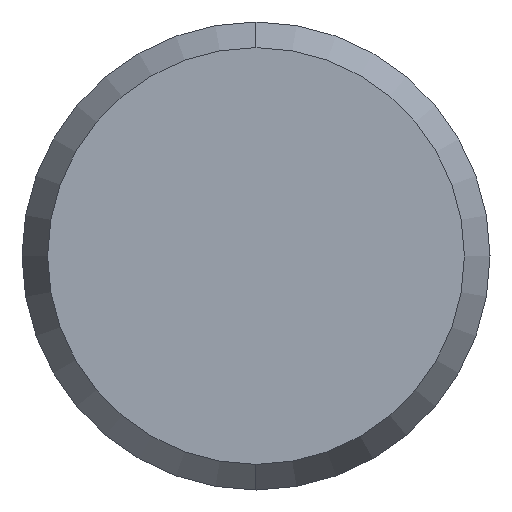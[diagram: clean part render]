
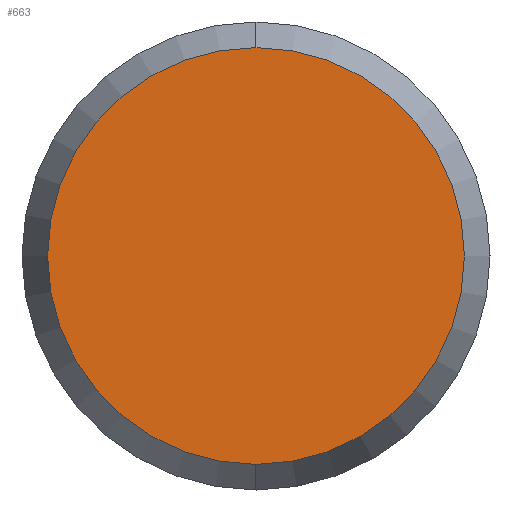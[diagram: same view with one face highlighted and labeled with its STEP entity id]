
A CAD part, left-side view. The second image highlights one B-rep face of the part: STEP entity #663.
In plain terms, the highlighted planar face has unit normal (-1, 0, 0).
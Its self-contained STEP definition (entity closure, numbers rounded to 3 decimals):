
#8 = CIRCLE ( 'NONE', #765, 3.25 ) ;
#34 = DIRECTION ( 'NONE',  ( 0., 0., 1. ) ) ;
#78 = DIRECTION ( 'NONE',  ( 1., 0., 0. ) ) ;
#86 = EDGE_LOOP ( 'NONE', ( #188, #326 ) ) ;
#188 = ORIENTED_EDGE ( 'NONE', *, *, #345, .F. ) ;
#236 = AXIS2_PLACEMENT_3D ( 'NONE', #822, #758, #34 ) ;
#326 = ORIENTED_EDGE ( 'NONE', *, *, #429, .F. ) ;
#345 = EDGE_CURVE ( 'NONE', #505, #682, #368, .T. ) ;
#368 = CIRCLE ( 'NONE', #745, 3.25 ) ;
#370 = DIRECTION ( 'NONE',  ( 0., 0., -1. ) ) ;
#429 = EDGE_CURVE ( 'NONE', #682, #505, #8, .T. ) ;
#452 = PLANE ( 'NONE',  #236 ) ;
#495 = CARTESIAN_POINT ( 'NONE',  ( -11.2, 0., 0. ) ) ;
#505 = VERTEX_POINT ( 'NONE', #577 ) ;
#534 = FACE_OUTER_BOUND ( 'NONE', #86, .T. ) ;
#561 = DIRECTION ( 'NONE',  ( 1., 0., 0. ) ) ;
#577 = CARTESIAN_POINT ( 'NONE',  ( -11.2, 0., -3.25 ) ) ;
#663 = ADVANCED_FACE ( 'NONE', ( #534 ), #452, .T. ) ;
#682 = VERTEX_POINT ( 'NONE', #753 ) ;
#694 = DIRECTION ( 'NONE',  ( 0., 0., -1. ) ) ;
#745 = AXIS2_PLACEMENT_3D ( 'NONE', #495, #561, #694 ) ;
#753 = CARTESIAN_POINT ( 'NONE',  ( -11.2, 0., 3.25 ) ) ;
#758 = DIRECTION ( 'NONE',  ( -1., 0., 0. ) ) ;
#765 = AXIS2_PLACEMENT_3D ( 'NONE', #803, #78, #370 ) ;
#803 = CARTESIAN_POINT ( 'NONE',  ( -11.2, 0., 0. ) ) ;
#822 = CARTESIAN_POINT ( 'NONE',  ( -11.2, 3.25, 0. ) ) ;
